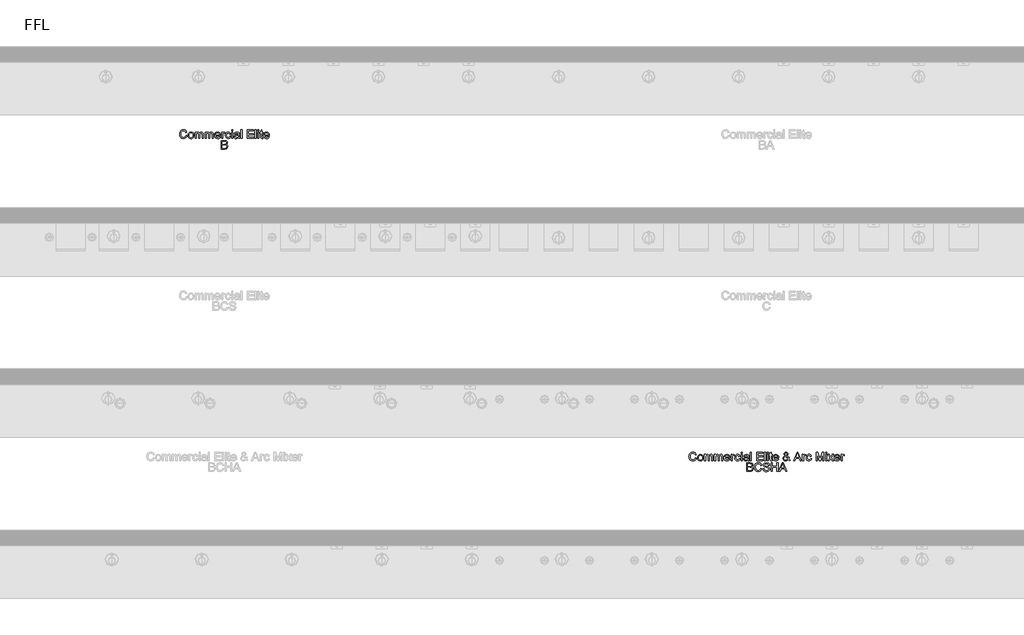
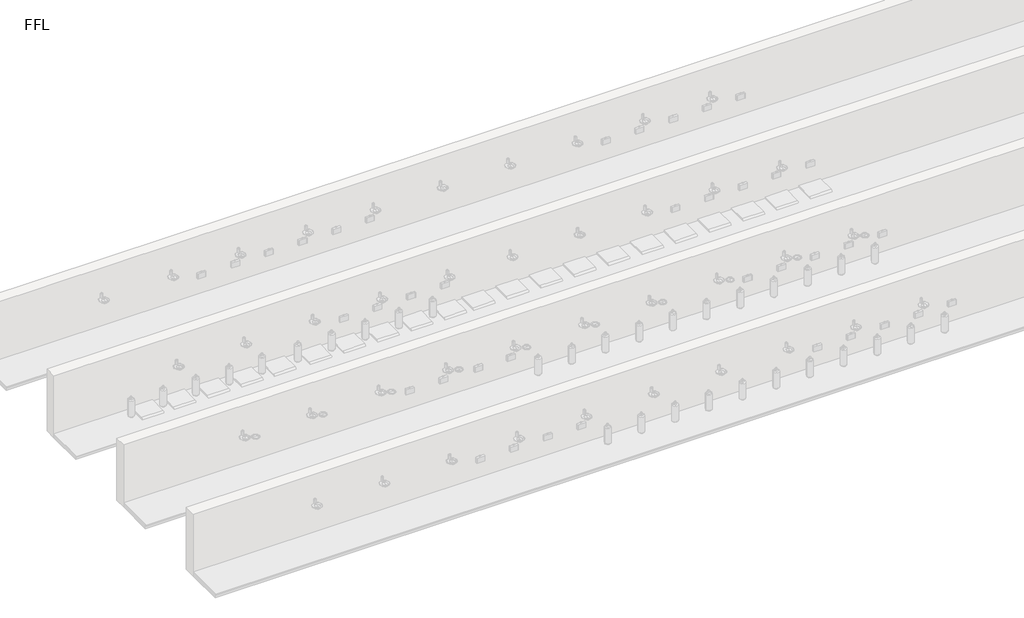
# One storey, part 10 of 13: 2 proxies.
"""IFC4 building model written with IfcOpenShell, lengths in millimetres."""

from ifc_helpers import new_model, si_unit, origin, origin_with_axes, place, context, project, spatial, polyline, outline, extrude, element, save

model = new_model("IFC4")

# Units and contexts
model_context = context("Model", 3, world=origin())
ifc_project = project(units=[si_unit("LENGTHUNIT", "METRE", prefix="MILLI")], contexts=[model_context])

# Site, building, storey
site = spatial("IfcSite", under=ifc_project)
building = spatial("IfcBuilding", under=site)
storey = spatial("IfcBuildingStorey", under=building, Name="FFL", Elevation=0.0)

# Proxies
placement = place(None, origin())
element("IfcBuildingElementProxy", 1, Name="150mm Arial", ObjectType="150mm Arial", at=placement, inside=storey, context=model_context, shape_type="SweptSolid", body=[
    extrude(outline(polyline([(-3000.1199083, 6596.3018309), (-2981.6583698, 6591.5422155), (-2990.1769996, 6570.0292948), (-3003.545389, 6554.3126482), (-3021.1054852, 6544.698766), (-3042.1992352, 6541.4941386), (-3063.6129972, 6543.9190184), (-3080.6187063, 6551.1936578), (-3093.6535621, 6563.065653), (-3103.154764, 6579.2826001), (-3108.9555453, 6598.3481049), (-3110.889139, 6618.7657732), (-3108.7031414, 6640.3012299), (-3102.1451486, 6658.8979847), (-3091.5577087, 6673.9655929), (-3077.2833698, 6684.9136097), (-3060.3542833, 6691.5797756), (-3041.8026006, 6693.8018309), (-3021.5607135, 6690.9262299), (-3004.8254371, 6682.299427), (-2992.1196078, 6668.4532732), (-2983.9660621, 6649.9196193), (-3002.4276006, 6645.5205809), (-3008.8278409, 6658.9836217), (-3017.5718313, 6668.2188982), (-3028.7677448, 6673.5599439), (-3042.5237544, 6675.3402924), (-3058.3801246, 6673.3661338), (-3071.4059659, 6667.4436578), (-3081.2902809, 6658.1948597), (-3087.7220717, 6646.2417347), (-3092.4276006, 6618.8018309), (-3086.8566871, 6586.9989463), (-3079.7352929, 6575.1224439), (-3069.5129371, 6566.6804367), (-3057.2578289, 6561.6368669), (-3044.0381775, 6559.955677), (-3028.6280212, 6562.2453405), (-3015.7869756, 6569.1143309), (-3006.0919635, 6580.4905328), (-3000.1199083, 6596.3018309)])), origin_with_axes(), (0.0, 0.0, 1.0), 5.0),
    extrude(outline(polyline([(-2963.1968313, 6598.0326001), (-2959.2034419, 6624.1834415), (-2947.2232736, 6642.5638501), (-2932.4215909, 6651.5692588), (-2914.6992352, 6654.5710617), (-2895.3047039, 6650.9157131), (-2879.8134179, 6639.9496674), (-2869.6586703, 6622.5383092), (-2866.2737544, 6599.5470232), (-2867.7701486, 6580.8961818), (-2872.2593313, 6566.6984655), (-2879.6105934, 6556.0659535), (-2889.6932256, 6548.1107251), (-2901.6688866, 6543.1482852), (-2914.6992352, 6541.4941386), (-2934.3281414, 6545.1359655), (-2949.8013986, 6556.0614463), (-2959.8479732, 6573.8378886), (-2963.1968313, 6598.0326001)]), holes=[polyline([(-2944.7352929, 6598.0686578), (-2942.5988746, 6581.3604246), (-2936.1896198, 6569.456879), (-2926.5441871, 6562.3309775), (-2914.6992352, 6559.955677), (-2902.9083698, 6562.3444992), (-2893.2809659, 6569.5109655), (-2886.8717111, 6581.5722636), (-2884.7352929, 6598.6455809), (-2886.8852328, 6614.8670352), (-2893.3350525, 6626.6083213), (-2902.975978, 6633.7342227), (-2914.6992352, 6636.1095232), (-2926.5441871, 6633.7432371), (-2936.1896198, 6626.644379), (-2942.5988746, 6614.7678766), (-2944.7352929, 6598.0686578)])]), origin_with_axes(), (0.0, 0.0, 1.0), 5.0),
    extrude(outline(polyline([(-2845.5045236, 6543.8018309), (-2845.5045236, 6652.2633693), (-2827.0429852, 6652.2633693), (-2827.0429852, 6634.4148117), (-2814.3506775, 6649.0362059), (-2796.2857736, 6654.5710617), (-2786.0183458, 6653.1603044), (-2777.7881775, 6648.9280328), (-2767.6199083, 6633.1167347), (-2753.2148602, 6649.2074799), (-2735.0237544, 6654.5710617), (-2721.1460501, 6652.3399919), (-2710.8831294, 6645.6467828), (-2704.5414828, 6634.3111458), (-2702.4276006, 6618.1527924), (-2702.4276006, 6543.8018309), (-2720.889139, 6543.8018309), (-2720.889139, 6610.2201001), (-2722.6018794, 6625.6347636), (-2728.8038025, 6633.2249078), (-2739.3506775, 6636.1095232), (-2749.3521799, 6634.2615665), (-2757.5057256, 6628.7176963), (-2762.927901, 6619.0993068), (-2764.7352929, 6605.0277924), (-2764.7352929, 6543.8018309), (-2783.1968313, 6543.8018309), (-2783.1968313, 6612.2753886), (-2787.4696679, 6630.160004), (-2793.1081895, 6634.6221434), (-2801.4780813, 6636.1095232), (-2815.1439467, 6632.143177), (-2824.2304852, 6620.5326001), (-2827.0429852, 6598.5013501), (-2827.0429852, 6543.8018309), (-2845.5045236, 6543.8018309)])), origin_with_axes(), (0.0, 0.0, 1.0), 5.0),
    extrude(outline(polyline([(-2674.7352929, 6543.8018309), (-2674.7352929, 6652.2633693), (-2656.2737544, 6652.2633693), (-2656.2737544, 6634.4148117), (-2643.5814467, 6649.0362059), (-2625.5165429, 6654.5710617), (-2615.249115, 6653.1603044), (-2607.0189467, 6648.9280328), (-2596.8506775, 6633.1167347), (-2582.4456294, 6649.2074799), (-2564.2545236, 6654.5710617), (-2550.3768193, 6652.3399919), (-2540.1138986, 6645.6467828), (-2533.772252, 6634.3111458), (-2531.6583698, 6618.1527924), (-2531.6583698, 6543.8018309), (-2550.1199083, 6543.8018309), (-2550.1199083, 6610.2201001), (-2551.8326486, 6625.6347636), (-2558.0345717, 6633.2249078), (-2568.5814467, 6636.1095232), (-2578.5829491, 6634.2615665), (-2586.7364948, 6628.7176963), (-2592.1586703, 6619.0993068), (-2593.9660621, 6605.0277924), (-2593.9660621, 6543.8018309), (-2612.4276006, 6543.8018309), (-2612.4276006, 6612.2753886), (-2616.7004371, 6630.160004), (-2622.3389587, 6634.6221434), (-2630.7088506, 6636.1095232), (-2644.3747159, 6632.143177), (-2653.4612544, 6620.5326001), (-2656.2737544, 6598.5013501), (-2656.2737544, 6543.8018309), (-2674.7352929, 6543.8018309)])), origin_with_axes(), (0.0, 0.0, 1.0), 5.0),
    extrude(outline(polyline([(-2428.0285621, 6576.1095232), (-2409.9276006, 6573.8018309), (-2416.4495357, 6560.1630088), (-2426.8566871, 6549.9676963), (-2440.9146799, 6543.612528), (-2458.389139, 6541.4941386), (-2480.0507977, 6545.1494871), (-2496.7184659, 6556.1155328), (-2507.3464708, 6573.6801362), (-2510.889139, 6597.1311578), (-2507.3104131, 6621.3709415), (-2496.5742352, 6639.4989463), (-2480.1319275, 6650.8030328), (-2459.4348121, 6654.5710617), (-2439.382228, 6650.8120472), (-2423.3590909, 6639.535004), (-2412.8527809, 6621.4430568), (-2409.3506775, 6597.2393309), (-2409.4588506, 6592.2633693), (-2492.4276006, 6592.2633693), (-2489.2319876, 6578.4442588), (-2481.8086102, 6568.285004), (-2471.0949684, 6562.0380088), (-2458.0285621, 6559.955677), (-2439.9276006, 6563.8138501), (-2428.0285621, 6576.1095232)]), holes=[polyline([(-2492.4276006, 6610.7249078), (-2427.8122159, 6610.7249078), (-2430.3092111, 6620.4785136), (-2435.2040429, 6627.455677), (-2445.967264, 6633.9460617), (-2459.5069275, 6636.1095232), (-2471.9513385, 6634.3832612), (-2482.2413025, 6629.2044751), (-2489.3942472, 6621.1320592), (-2492.4276006, 6610.7249078)])]), origin_with_axes(), (0.0, 0.0, 1.0), 5.0),
    extrude(outline(polyline([(-2390.889139, 6543.8018309), (-2390.889139, 6652.2633693), (-2374.7352929, 6652.2633693), (-2374.7352929, 6636.2176963), (-2363.2689467, 6651.0013501), (-2351.7304852, 6654.5710617), (-2333.1968313, 6648.8739463), (-2339.3626967, 6632.3234655), (-2352.3434659, 6636.1095232), (-2362.7821679, 6632.4676963), (-2369.4348121, 6622.3715424), (-2372.4276006, 6600.8090424), (-2372.4276006, 6543.8018309), (-2390.889139, 6543.8018309)])), origin_with_axes(), (0.0, 0.0, 1.0), 5.0),
    extrude(outline(polyline([(-2252.4276006, 6583.0326001), (-2233.9660621, 6580.7249078), (-2239.1132977, 6564.3051362), (-2248.7857736, 6551.8967828), (-2262.0730333, 6544.0947996), (-2278.0646198, 6541.4941386), (-2297.7025405, 6545.1224439), (-2313.0586102, 6556.0073597), (-2322.9699684, 6573.6711217), (-2326.2737544, 6597.6359655), (-2320.6307256, 6628.3030328), (-2313.5093313, 6639.8009294), (-2303.4312063, 6648.0085617), (-2291.3744155, 6652.9304367), (-2278.3170236, 6654.5710617), (-2262.7175645, 6652.3174559), (-2250.2461102, 6645.5566386), (-2241.2992953, 6634.6491867), (-2236.2737544, 6619.955677), (-2254.7352929, 6617.6479847), (-2263.2989948, 6631.4761097), (-2278.1727929, 6636.1095232), (-2290.1033818, 6633.8288742), (-2299.5730333, 6626.986927), (-2305.7524203, 6615.2140905), (-2307.8122159, 6598.1407732), (-2305.7974924, 6580.8375881), (-2299.7533217, 6569.0241867), (-2290.4549443, 6562.2228044), (-2278.6776006, 6559.955677), (-2269.1178049, 6561.3709415), (-2261.279764, 6565.6167347), (-2255.5781414, 6572.8012299), (-2252.4276006, 6583.0326001)])), origin_with_axes(), (0.0, 0.0, 1.0), 5.0),
    extrude(outline(polyline([(-2217.8122159, 6673.0326001), (-2217.8122159, 6691.4941386), (-2199.3506775, 6691.4941386), (-2199.3506775, 6673.0326001), (-2217.8122159, 6673.0326001)])), origin_with_axes(), (0.0, 0.0, 1.0), 5.0),
    extrude(outline(polyline([(-2217.8122159, 6543.8018309), (-2217.8122159, 6652.2633693), (-2199.3506775, 6652.2633693), (-2199.3506775, 6543.8018309), (-2217.8122159, 6543.8018309)])), origin_with_axes(), (0.0, 0.0, 1.0), 5.0),
    extrude(outline(polyline([(-2102.4276006, 6557.6479847), (-2120.3302448, 6545.1359655), (-2140.107889, 6541.4941386), (-2155.5360741, 6543.6846434), (-2166.9167833, 6550.2561578), (-2173.9345116, 6560.2351242), (-2176.2737544, 6572.6479847), (-2172.7401006, 6587.2513501), (-2163.4552448, 6597.8523117), (-2150.5285621, 6603.910004), (-2134.5550044, 6606.6864463), (-2102.5357736, 6613.0326001), (-2102.4276006, 6617.143177), (-2103.6986342, 6625.3823597), (-2107.5117352, 6630.7729847), (-2116.0393794, 6634.7753886), (-2127.920389, 6636.1095232), (-2146.5982736, 6632.5578405), (-2155.5045236, 6619.955677), (-2173.9660621, 6622.2633693), (-2165.9792833, 6640.2922155), (-2149.8975525, 6650.8571193), (-2125.5405813, 6654.5710617), (-2103.1667833, 6651.2898117), (-2090.5285621, 6643.050629), (-2084.8675044, 6630.5205809), (-2083.9660621, 6614.3667347), (-2083.9660621, 6591.3979847), (-2083.0285621, 6559.3246674), (-2079.3506775, 6543.8018309), (-2097.8122159, 6543.8018309), (-2102.4276006, 6557.6479847)]), holes=[polyline([(-2102.4276006, 6594.5710617), (-2132.2112544, 6588.910004), (-2148.0946679, 6585.9172155), (-2155.2881775, 6581.049427), (-2157.8122159, 6573.9460617), (-2152.3134179, 6563.9580809), (-2136.1776006, 6559.955677), (-2117.4997159, 6564.3727443), (-2105.4564467, 6575.0638501), (-2102.5357736, 6589.3426963), (-2102.4276006, 6594.5710617)])]), origin_with_axes(), (0.0, 0.0, 1.0), 5.0),
    extrude(outline(polyline([(-2058.5814467, 6543.8018309), (-2058.5814467, 6691.4941386), (-2040.1199083, 6691.4941386), (-2040.1199083, 6543.8018309), (-2058.5814467, 6543.8018309)])), origin_with_axes(), (0.0, 0.0, 1.0), 5.0),
    extrude(outline(polyline([(-1952.4276006, 6543.8018309), (-1952.4276006, 6691.4941386), (-1846.2737544, 6691.4941386), (-1846.2737544, 6673.0326001), (-1933.9660621, 6673.0326001), (-1933.9660621, 6629.1864463), (-1850.889139, 6629.1864463), (-1850.889139, 6610.7249078), (-1933.9660621, 6610.7249078), (-1933.9660621, 6562.2633693), (-1843.9660621, 6562.2633693), (-1843.9660621, 6543.8018309), (-1952.4276006, 6543.8018309)])), origin_with_axes(), (0.0, 0.0, 1.0), 5.0),
    extrude(outline(polyline([(-1818.5814467, 6543.8018309), (-1818.5814467, 6691.4941386), (-1800.1199083, 6691.4941386), (-1800.1199083, 6543.8018309), (-1818.5814467, 6543.8018309)])), origin_with_axes(), (0.0, 0.0, 1.0), 5.0),
    extrude(outline(polyline([(-1772.4276006, 6543.8018309), (-1772.4276006, 6652.2633693), (-1753.9660621, 6652.2633693), (-1753.9660621, 6543.8018309), (-1772.4276006, 6543.8018309)])), origin_with_axes(), (0.0, 0.0, 1.0), 5.0),
    extrude(outline(polyline([(-1772.4276006, 6673.0326001), (-1772.4276006, 6691.4941386), (-1753.9660621, 6691.4941386), (-1753.9660621, 6673.0326001), (-1772.4276006, 6673.0326001)])), origin_with_axes(), (0.0, 0.0, 1.0), 5.0),
    extrude(outline(polyline([(-1687.0429852, 6559.1984655), (-1684.7352929, 6543.2609655), (-1698.545389, 6541.4941386), (-1714.014139, 6544.5590424), (-1721.7304852, 6552.5999078), (-1723.9660621, 6573.549427), (-1723.9660621, 6633.8018309), (-1737.8122159, 6633.8018309), (-1737.8122159, 6652.2633693), (-1723.9660621, 6652.2633693), (-1723.9660621, 6678.6215424), (-1705.5045236, 6689.4749078), (-1705.5045236, 6652.2633693), (-1687.0429852, 6652.2633693), (-1687.0429852, 6633.8018309), (-1705.5045236, 6633.8018309), (-1705.5045236, 6574.0902924), (-1704.5309659, 6564.5710617), (-1701.3759179, 6561.1996674), (-1695.0838506, 6559.955677), (-1687.0429852, 6559.1984655)])), origin_with_axes(), (0.0, 0.0, 1.0), 5.0),
    extrude(outline(polyline([(-1592.6439467, 6576.1095232), (-1574.5429852, 6573.8018309), (-1581.0649203, 6560.1630088), (-1591.4720717, 6549.9676963), (-1605.5300645, 6543.612528), (-1623.0045236, 6541.4941386), (-1644.6661823, 6545.1494871), (-1661.3338506, 6556.1155328), (-1671.9618554, 6573.6801362), (-1675.5045236, 6597.1311578), (-1671.9257977, 6621.3709415), (-1661.1896198, 6639.4989463), (-1644.7473121, 6650.8030328), (-1624.0501967, 6654.5710617), (-1603.9976126, 6650.8120472), (-1587.9744756, 6639.535004), (-1577.4681655, 6621.4430568), (-1573.9660621, 6597.2393309), (-1574.0742352, 6592.2633693), (-1657.0429852, 6592.2633693), (-1653.8473722, 6578.4442588), (-1646.4239948, 6568.285004), (-1635.710353, 6562.0380088), (-1622.6439467, 6559.955677), (-1604.5429852, 6563.8138501), (-1592.6439467, 6576.1095232)]), holes=[polyline([(-1657.0429852, 6610.7249078), (-1592.4276006, 6610.7249078), (-1594.9245958, 6620.4785136), (-1599.8194275, 6627.455677), (-1610.5826486, 6633.9460617), (-1624.1223121, 6636.1095232), (-1636.5667232, 6634.3832612), (-1646.8566871, 6629.2044751), (-1654.0096318, 6621.1320592), (-1657.0429852, 6610.7249078)])]), origin_with_axes(), (0.0, 0.0, 1.0), 5.0),
    extrude(outline(polyline([(-2396.6583698, 6361.4941386), (-2396.6583698, 6509.1864463), (-2340.3001967, 6509.1864463), (-2312.6980333, 6504.8414943), (-2303.4221919, 6499.3291746), (-2296.3999563, 6491.4821193), (-2290.5045236, 6472.5878886), (-2295.4624563, 6455.3342828), (-2310.4444275, 6442.2633693), (-2299.9831895, 6436.800629), (-2292.2533217, 6428.4893309), (-2287.4801847, 6417.8793549), (-2285.889139, 6405.5205809), (-2290.2340909, 6385.6708213), (-2300.9973121, 6371.5362059), (-2317.061014, 6364.0362059), (-2340.732889, 6361.4941386), (-2396.6583698, 6361.4941386)]), holes=[polyline([(-2378.1968313, 6379.955677), (-2340.3362544, 6379.955677), (-2326.6343313, 6380.6768309), (-2315.0417833, 6384.6972636), (-2307.3614948, 6392.9003886), (-2304.3506775, 6405.3402924), (-2307.8843313, 6419.691254), (-2319.3326486, 6428.2549559), (-2342.139139, 6430.7249078), (-2378.1968313, 6430.7249078), (-2378.1968313, 6379.955677)]), polyline([(-2378.1968313, 6449.1864463), (-2344.482889, 6449.1864463), (-2324.795389, 6450.7729847), (-2312.9504371, 6457.6059174), (-2308.9660621, 6469.6311578), (-2312.6800044, 6481.674427), (-2323.3170236, 6488.7958213), (-2347.0429852, 6490.7249078), (-2378.1968313, 6490.7249078), (-2378.1968313, 6449.1864463)])]), origin_with_axes(), (0.0, 0.0, 1.0), 5.0),
])
element("IfcBuildingElementProxy", 2, Name="150mm Arial", ObjectType="150mm Arial", at=placement, inside=storey, context=model_context, shape_type="SweptSolid", body=[
    extrude(outline(polyline([(5724.0147071, 1076.3018309), (5742.4762456, 1071.5422155), (5733.9576158, 1050.0292948), (5720.5892264, 1034.3126482), (5703.0291302, 1024.698766), (5681.9353802, 1021.4941386), (5660.5216182, 1023.9190184), (5643.5159091, 1031.1936578), (5630.4810533, 1043.065653), (5620.9798514, 1059.2826001), (5615.1790701, 1078.3481049), (5613.2454764, 1098.7657732), (5615.431474, 1120.3012299), (5621.9894667, 1138.8979847), (5632.5769066, 1153.9655929), (5646.8512456, 1164.9136097), (5663.7803321, 1171.5797756), (5682.3320148, 1173.8018309), (5702.5739018, 1170.9262299), (5719.3091783, 1162.299427), (5732.0150076, 1148.4532732), (5740.1685533, 1129.9196193), (5721.7070148, 1125.5205809), (5715.3067744, 1138.9836217), (5706.5627841, 1148.2188982), (5695.3668706, 1153.5599439), (5681.610861, 1155.3402924), (5665.7544908, 1153.3661338), (5652.7286494, 1147.4436578), (5642.8443345, 1138.1948597), (5636.4125437, 1126.2417347), (5631.7070148, 1098.8018309), (5637.2779283, 1066.9989463), (5644.3993225, 1055.1224439), (5654.6216783, 1046.6804367), (5666.8767865, 1041.6368669), (5680.0964379, 1039.955677), (5695.5065941, 1042.2453405), (5708.3476398, 1049.1143309), (5718.0426518, 1060.4905328), (5724.0147071, 1076.3018309)])), origin_with_axes(), (0.0, 0.0, 1.0), 5.0),
    extrude(outline(polyline([(5760.9377841, 1078.0326001), (5764.9311735, 1104.1834415), (5776.9113417, 1122.5638501), (5791.7130244, 1131.5692588), (5809.4353802, 1134.5710617), (5828.8299115, 1130.9157131), (5844.3211975, 1119.9496674), (5854.4759451, 1102.5383092), (5857.860861, 1079.5470232), (5856.3644667, 1060.8961818), (5851.8752841, 1046.6984655), (5844.524022, 1036.0659535), (5834.4413898, 1028.1107251), (5822.4657288, 1023.1482852), (5809.4353802, 1021.4941386), (5789.806474, 1025.1359655), (5774.3332167, 1036.0614463), (5764.2866422, 1053.8378886), (5760.9377841, 1078.0326001)]), holes=[polyline([(5779.3993225, 1078.0686578), (5781.5357408, 1061.3604246), (5787.9449956, 1049.456879), (5797.5904283, 1042.3309775), (5809.4353802, 1039.955677), (5821.2262456, 1042.3444992), (5830.8536494, 1049.5109655), (5837.2629042, 1061.5722636), (5839.3993225, 1078.6455809), (5837.2493826, 1094.8670352), (5830.7995629, 1106.6083213), (5821.1586374, 1113.7342227), (5809.4353802, 1116.1095232), (5797.5904283, 1113.7432371), (5787.9449956, 1106.644379), (5781.5357408, 1094.7678766), (5779.3993225, 1078.0686578)])]), origin_with_axes(), (0.0, 0.0, 1.0), 5.0),
    extrude(outline(polyline([(5878.6300917, 1023.8018309), (5878.6300917, 1132.2633693), (5897.0916302, 1132.2633693), (5897.0916302, 1114.4148117), (5909.7839379, 1129.0362059), (5927.8488417, 1134.5710617), (5938.1162696, 1133.1603044), (5946.3464379, 1128.9280328), (5956.5147071, 1113.1167347), (5970.9197552, 1129.2074799), (5989.110861, 1134.5710617), (6002.9885653, 1132.3399919), (6013.251486, 1125.6467828), (6019.5931326, 1114.3111458), (6021.7070148, 1098.1527924), (6021.7070148, 1023.8018309), (6003.2454764, 1023.8018309), (6003.2454764, 1090.2201001), (6001.532736, 1105.6347636), (5995.3308129, 1113.2249078), (5984.7839379, 1116.1095232), (5974.7824355, 1114.2615665), (5966.6288898, 1108.7176963), (5961.2067143, 1099.0993068), (5959.3993225, 1085.0277924), (5959.3993225, 1023.8018309), (5940.9377841, 1023.8018309), (5940.9377841, 1092.2753886), (5936.6649475, 1110.160004), (5931.0264259, 1114.6221434), (5922.6565341, 1116.1095232), (5908.9906687, 1112.143177), (5899.9041302, 1100.5326001), (5897.0916302, 1078.5013501), (5897.0916302, 1023.8018309), (5878.6300917, 1023.8018309)])), origin_with_axes(), (0.0, 0.0, 1.0), 5.0),
    extrude(outline(polyline([(6049.3993225, 1023.8018309), (6049.3993225, 1132.2633693), (6067.860861, 1132.2633693), (6067.860861, 1114.4148117), (6080.5531687, 1129.0362059), (6098.6180725, 1134.5710617), (6108.8855004, 1133.1603044), (6117.1156687, 1128.9280328), (6127.2839379, 1113.1167347), (6141.688986, 1129.2074799), (6159.8800917, 1134.5710617), (6173.7577961, 1132.3399919), (6184.0207167, 1125.6467828), (6190.3623634, 1114.3111458), (6192.4762456, 1098.1527924), (6192.4762456, 1023.8018309), (6174.0147071, 1023.8018309), (6174.0147071, 1090.2201001), (6172.3019667, 1105.6347636), (6166.1000437, 1113.2249078), (6155.5531687, 1116.1095232), (6145.5516663, 1114.2615665), (6137.3981206, 1108.7176963), (6131.9759451, 1099.0993068), (6130.1685533, 1085.0277924), (6130.1685533, 1023.8018309), (6111.7070148, 1023.8018309), (6111.7070148, 1092.2753886), (6107.4341783, 1110.160004), (6101.7956566, 1114.6221434), (6093.4257648, 1116.1095232), (6079.7598994, 1112.143177), (6070.673361, 1100.5326001), (6067.860861, 1078.5013501), (6067.860861, 1023.8018309), (6049.3993225, 1023.8018309)])), origin_with_axes(), (0.0, 0.0, 1.0), 5.0),
    extrude(outline(polyline([(6296.1060533, 1056.1095232), (6314.2070148, 1053.8018309), (6307.6850797, 1040.1630088), (6297.2779283, 1029.9676963), (6283.2199355, 1023.612528), (6265.7454764, 1021.4941386), (6244.0838177, 1025.1494871), (6227.4161494, 1036.1155328), (6216.7881446, 1053.6801362), (6213.2454764, 1077.1311578), (6216.8242023, 1101.3709415), (6227.5603802, 1119.4989463), (6244.0026879, 1130.8030328), (6264.6998033, 1134.5710617), (6284.7523874, 1130.8120472), (6300.7755244, 1119.535004), (6311.2818345, 1101.4430568), (6314.7839379, 1077.2393309), (6314.6757648, 1072.2633693), (6231.7070148, 1072.2633693), (6234.9026278, 1058.4442588), (6242.3260052, 1048.285004), (6253.039647, 1042.0380088), (6266.1060533, 1039.955677), (6284.2070148, 1043.8138501), (6296.1060533, 1056.1095232)]), holes=[polyline([(6231.7070148, 1090.7249078), (6296.3223994, 1090.7249078), (6293.8254042, 1100.4785136), (6288.9305725, 1107.455677), (6278.1673514, 1113.9460617), (6264.6276879, 1116.1095232), (6252.1832768, 1114.3832612), (6241.8933129, 1109.2044751), (6234.7403682, 1101.1320592), (6231.7070148, 1090.7249078)])]), origin_with_axes(), (0.0, 0.0, 1.0), 5.0),
    extrude(outline(polyline([(6333.2454764, 1023.8018309), (6333.2454764, 1132.2633693), (6349.3993225, 1132.2633693), (6349.3993225, 1116.2176963), (6360.8656687, 1131.0013501), (6372.4041302, 1134.5710617), (6390.9377841, 1128.8739463), (6384.7719187, 1112.3234655), (6371.7911494, 1116.1095232), (6361.3524475, 1112.4676963), (6354.6998033, 1102.3715424), (6351.7070148, 1080.8090424), (6351.7070148, 1023.8018309), (6333.2454764, 1023.8018309)])), origin_with_axes(), (0.0, 0.0, 1.0), 5.0),
    extrude(outline(polyline([(6471.7070148, 1063.0326001), (6490.1685533, 1060.7249078), (6485.0213177, 1044.3051362), (6475.3488417, 1031.8967828), (6462.0615821, 1024.0947996), (6446.0699956, 1021.4941386), (6426.4320749, 1025.1224439), (6411.0760052, 1036.0073597), (6401.164647, 1053.6711217), (6397.860861, 1077.6359655), (6403.5038898, 1108.3030328), (6410.6252841, 1119.8009294), (6420.7034091, 1128.0085617), (6432.7601999, 1132.9304367), (6445.8175917, 1134.5710617), (6461.4170509, 1132.3174559), (6473.8885052, 1125.5566386), (6482.8353201, 1114.6491867), (6487.860861, 1099.955677), (6469.3993225, 1097.6479847), (6460.8356206, 1111.4761097), (6445.9618225, 1116.1095232), (6434.0312336, 1113.8288742), (6424.5615821, 1106.986927), (6418.3821951, 1095.2140905), (6416.3223994, 1078.1407732), (6418.337123, 1060.8375881), (6424.3812937, 1049.0241867), (6433.6796711, 1042.2228044), (6445.4570148, 1039.955677), (6455.0168105, 1041.3709415), (6462.8548514, 1045.6167347), (6468.556474, 1052.8012299), (6471.7070148, 1063.0326001)])), origin_with_axes(), (0.0, 0.0, 1.0), 5.0),
    extrude(outline(polyline([(6506.3223994, 1153.0326001), (6506.3223994, 1171.4941386), (6524.7839379, 1171.4941386), (6524.7839379, 1153.0326001), (6506.3223994, 1153.0326001)])), origin_with_axes(), (0.0, 0.0, 1.0), 5.0),
    extrude(outline(polyline([(6506.3223994, 1023.8018309), (6506.3223994, 1132.2633693), (6524.7839379, 1132.2633693), (6524.7839379, 1023.8018309), (6506.3223994, 1023.8018309)])), origin_with_axes(), (0.0, 0.0, 1.0), 5.0),
    extrude(outline(polyline([(6621.7070148, 1037.6479847), (6603.8043706, 1025.1359655), (6584.0267264, 1021.4941386), (6568.5985413, 1023.6846434), (6557.2178321, 1030.2561578), (6550.2001038, 1040.2351242), (6547.860861, 1052.6479847), (6551.3945148, 1067.2513501), (6560.6793706, 1077.8523117), (6573.6060533, 1083.910004), (6589.579611, 1086.6864463), (6621.5988417, 1093.0326001), (6621.7070148, 1097.143177), (6620.4359812, 1105.3823597), (6616.6228802, 1110.7729847), (6608.095236, 1114.7753886), (6596.2142264, 1116.1095232), (6577.5363417, 1112.5578405), (6568.6300917, 1099.955677), (6550.1685533, 1102.2633693), (6558.1553321, 1120.2922155), (6574.2370629, 1130.8571193), (6598.5940341, 1134.5710617), (6620.9678321, 1131.2898117), (6633.6060533, 1123.050629), (6639.267111, 1110.5205809), (6640.1685533, 1094.3667347), (6640.1685533, 1071.3979847), (6641.1060533, 1039.3246674), (6644.7839379, 1023.8018309), (6626.3223994, 1023.8018309), (6621.7070148, 1037.6479847)]), holes=[polyline([(6621.7070148, 1074.5710617), (6591.923361, 1068.910004), (6576.0399475, 1065.9172155), (6568.8464379, 1061.049427), (6566.3223994, 1053.9460617), (6571.8211975, 1043.9580809), (6587.9570148, 1039.955677), (6606.6348994, 1044.3727443), (6618.6781687, 1055.0638501), (6621.5988417, 1069.3426963), (6621.7070148, 1074.5710617)])]), origin_with_axes(), (0.0, 0.0, 1.0), 5.0),
    extrude(outline(polyline([(6665.5531687, 1023.8018309), (6665.5531687, 1171.4941386), (6684.0147071, 1171.4941386), (6684.0147071, 1023.8018309), (6665.5531687, 1023.8018309)])), origin_with_axes(), (0.0, 0.0, 1.0), 5.0),
    extrude(outline(polyline([(6771.7070148, 1023.8018309), (6771.7070148, 1171.4941386), (6877.860861, 1171.4941386), (6877.860861, 1153.0326001), (6790.1685533, 1153.0326001), (6790.1685533, 1109.1864463), (6873.2454764, 1109.1864463), (6873.2454764, 1090.7249078), (6790.1685533, 1090.7249078), (6790.1685533, 1042.2633693), (6880.1685533, 1042.2633693), (6880.1685533, 1023.8018309), (6771.7070148, 1023.8018309)])), origin_with_axes(), (0.0, 0.0, 1.0), 5.0),
    extrude(outline(polyline([(6905.5531687, 1023.8018309), (6905.5531687, 1171.4941386), (6924.0147071, 1171.4941386), (6924.0147071, 1023.8018309), (6905.5531687, 1023.8018309)])), origin_with_axes(), (0.0, 0.0, 1.0), 5.0),
    extrude(outline(polyline([(6951.7070148, 1023.8018309), (6951.7070148, 1132.2633693), (6970.1685533, 1132.2633693), (6970.1685533, 1023.8018309), (6951.7070148, 1023.8018309)])), origin_with_axes(), (0.0, 0.0, 1.0), 5.0),
    extrude(outline(polyline([(6951.7070148, 1153.0326001), (6951.7070148, 1171.4941386), (6970.1685533, 1171.4941386), (6970.1685533, 1153.0326001), (6951.7070148, 1153.0326001)])), origin_with_axes(), (0.0, 0.0, 1.0), 5.0),
    extrude(outline(polyline([(7037.0916302, 1039.1984655), (7039.3993225, 1023.2609655), (7025.5892264, 1021.4941386), (7010.1204764, 1024.5590424), (7002.4041302, 1032.5999078), (7000.1685533, 1053.549427), (7000.1685533, 1113.8018309), (6986.3223994, 1113.8018309), (6986.3223994, 1132.2633693), (7000.1685533, 1132.2633693), (7000.1685533, 1158.6215424), (7018.6300917, 1169.4749078), (7018.6300917, 1132.2633693), (7037.0916302, 1132.2633693), (7037.0916302, 1113.8018309), (7018.6300917, 1113.8018309), (7018.6300917, 1054.0902924), (7019.6036494, 1044.5710617), (7022.7586975, 1041.1996674), (7029.0507648, 1039.955677), (7037.0916302, 1039.1984655)])), origin_with_axes(), (0.0, 0.0, 1.0), 5.0),
    extrude(outline(polyline([(7131.4906687, 1056.1095232), (7149.5916302, 1053.8018309), (7143.0696951, 1040.1630088), (7132.6625437, 1029.9676963), (7118.6045509, 1023.612528), (7101.1300917, 1021.4941386), (7079.4684331, 1025.1494871), (7062.8007648, 1036.1155328), (7052.17276, 1053.6801362), (7048.6300917, 1077.1311578), (7052.2088177, 1101.3709415), (7062.9449956, 1119.4989463), (7079.3873033, 1130.8030328), (7100.0844187, 1134.5710617), (7120.1370028, 1130.8120472), (7136.1601398, 1119.535004), (7146.6664499, 1101.4430568), (7150.1685533, 1077.2393309), (7150.0603802, 1072.2633693), (7067.0916302, 1072.2633693), (7070.2872432, 1058.4442588), (7077.7106206, 1048.285004), (7088.4242624, 1042.0380088), (7101.4906687, 1039.955677), (7119.5916302, 1043.8138501), (7131.4906687, 1056.1095232)]), holes=[polyline([(7067.0916302, 1090.7249078), (7131.7070148, 1090.7249078), (7129.2100196, 1100.4785136), (7124.3151879, 1107.455677), (7113.5519667, 1113.9460617), (7100.0123033, 1116.1095232), (7087.5678922, 1114.3832612), (7077.2779283, 1109.2044751), (7070.1249836, 1101.1320592), (7067.0916302, 1090.7249078)])]), origin_with_axes(), (0.0, 0.0, 1.0), 5.0),
    extrude(outline(polyline([(7311.0219187, 1042.0470232), (7291.4425917, 1026.6323597), (7268.5459571, 1021.4941386), (7248.173361, 1025.2982251), (7232.4882648, 1036.7104847), (7224.4023273, 1049.8444992), (7221.7070148, 1064.4388501), (7223.8749836, 1077.3745472), (7230.3788898, 1088.9941386), (7241.1916903, 1099.2886097), (7256.2863417, 1108.2489463), (7243.3957167, 1126.9268309), (7240.1685533, 1140.7729847), (7242.7106206, 1153.2399318), (7250.3368225, 1163.9580809), (7261.8121831, 1171.3408934), (7275.9017264, 1173.8018309), (7289.3061735, 1171.4490665), (7300.0243225, 1164.3907732), (7307.0555725, 1154.0332011), (7309.3993225, 1141.7826001), (7307.6640461, 1131.4971434), (7302.4582167, 1121.986927), (7281.6348994, 1105.2922155), (7308.3536494, 1072.0109655), (7316.3223994, 1092.455677), (7334.7839379, 1088.4532732), (7321.7310533, 1058.0566386), (7344.0147071, 1035.7008693), (7330.1685533, 1021.4941386), (7311.0219187, 1042.0470232)]), holes=[polyline([(7272.2959571, 1116.9388501), (7287.4762456, 1128.3871674), (7290.9377841, 1139.2585617), (7286.376486, 1150.8511097), (7274.9642264, 1155.3402924), (7263.2995629, 1150.8871674), (7258.6300917, 1140.0157732), (7260.2166302, 1133.2549559), (7265.0123033, 1125.736927), (7272.2959571, 1116.9388501)]), polyline([(7298.6541302, 1055.3523117), (7265.6973994, 1096.4941386), (7245.4149475, 1081.0253886), (7240.1685533, 1066.8907732), (7241.9624235, 1058.1828405), (7247.3440341, 1049.1503886), (7256.0159091, 1042.2543549), (7267.6805725, 1039.955677), (7284.6457167, 1044.2465424), (7298.6541302, 1055.3523117)])]), origin_with_axes(), (0.0, 0.0, 1.0), 5.0),
    extrude(outline(polyline([(7405.2767264, 1023.8018309), (7464.2310533, 1171.4941386), (7479.9522071, 1171.4941386), (7538.9065341, 1023.8018309), (7519.3993225, 1023.8018309), (7502.4882648, 1069.955677), (7441.6589379, 1069.955677), (7424.7839379, 1023.8018309), (7405.2767264, 1023.8018309)]), holes=[polyline([(7448.4377841, 1088.4172155), (7495.7454764, 1088.4172155), (7482.4401879, 1124.7273117), (7472.0916302, 1153.0326001), (7462.8969187, 1127.9003886), (7448.4377841, 1088.4172155)])]), origin_with_axes(), (0.0, 0.0, 1.0), 5.0),
    extrude(outline(polyline([(7556.3223994, 1023.8018309), (7556.3223994, 1132.2633693), (7572.4762456, 1132.2633693), (7572.4762456, 1116.2176963), (7583.9425917, 1131.0013501), (7595.4810533, 1134.5710617), (7614.0147071, 1128.8739463), (7607.8488417, 1112.3234655), (7594.8680725, 1116.1095232), (7584.4293706, 1112.4676963), (7577.7767264, 1102.3715424), (7574.7839379, 1080.8090424), (7574.7839379, 1023.8018309), (7556.3223994, 1023.8018309)])), origin_with_axes(), (0.0, 0.0, 1.0), 5.0),
    extrude(outline(polyline([(7694.7839379, 1063.0326001), (7713.2454764, 1060.7249078), (7708.0982408, 1044.3051362), (7698.4257648, 1031.8967828), (7685.1385052, 1024.0947996), (7669.1469187, 1021.4941386), (7649.508998, 1025.1224439), (7634.1529283, 1036.0073597), (7624.2415701, 1053.6711217), (7620.9377841, 1077.6359655), (7626.5808129, 1108.3030328), (7633.7022071, 1119.8009294), (7643.7803321, 1128.0085617), (7655.837123, 1132.9304367), (7668.8945148, 1134.5710617), (7684.493974, 1132.3174559), (7696.9654283, 1125.5566386), (7705.9122432, 1114.6491867), (7710.9377841, 1099.955677), (7692.4762456, 1097.6479847), (7683.9125437, 1111.4761097), (7669.0387456, 1116.1095232), (7657.1081566, 1113.8288742), (7647.6385052, 1106.986927), (7641.4591182, 1095.2140905), (7639.3993225, 1078.1407732), (7641.4140461, 1060.8375881), (7647.4582167, 1049.0241867), (7656.7565941, 1042.2228044), (7668.5339379, 1039.955677), (7678.0937336, 1041.3709415), (7685.9317744, 1045.6167347), (7691.633397, 1052.8012299), (7694.7839379, 1063.0326001)])), origin_with_axes(), (0.0, 0.0, 1.0), 5.0),
    extrude(outline(polyline([(7789.3993225, 1023.8018309), (7789.3993225, 1171.4941386), (7821.1661494, 1171.4941386), (7851.3824956, 1067.3955809), (7857.4762456, 1045.6527924), (7864.0748033, 1069.1984655), (7893.7863417, 1171.4941386), (7925.5531687, 1171.4941386), (7925.5531687, 1023.8018309), (7907.0916302, 1023.8018309), (7907.0916302, 1153.0326001), (7869.9882648, 1023.8018309), (7844.9642264, 1023.8018309), (7807.860861, 1153.0326001), (7807.860861, 1023.8018309), (7789.3993225, 1023.8018309)])), origin_with_axes(), (0.0, 0.0, 1.0), 5.0),
    extrude(outline(polyline([(7955.5531687, 1153.0326001), (7955.5531687, 1171.4941386), (7974.0147071, 1171.4941386), (7974.0147071, 1153.0326001), (7955.5531687, 1153.0326001)])), origin_with_axes(), (0.0, 0.0, 1.0), 5.0),
    extrude(outline(polyline([(7955.5531687, 1023.8018309), (7955.5531687, 1132.2633693), (7974.0147071, 1132.2633693), (7974.0147071, 1023.8018309), (7955.5531687, 1023.8018309)])), origin_with_axes(), (0.0, 0.0, 1.0), 5.0),
    extrude(outline(polyline([(7990.1685533, 1023.8018309), (8029.6156687, 1078.3210617), (7992.4762456, 1132.2633693), (8014.6877841, 1132.2633693), (8032.6084571, 1106.3018309), (8040.9738417, 1094.0422155), (8048.2214379, 1104.066254), (8068.6300917, 1132.2633693), (8090.8416302, 1132.2633693), (8051.8272071, 1078.3210617), (8089.3993225, 1023.8018309), (8067.1877841, 1023.8018309), (8044.579611, 1056.5782732), (8040.4329764, 1062.5638501), (8012.3800917, 1023.8018309), (7990.1685533, 1023.8018309)])), origin_with_axes(), (0.0, 0.0, 1.0), 5.0),
    extrude(outline(polyline([(8181.4906687, 1056.1095232), (8199.5916302, 1053.8018309), (8193.0696951, 1040.1630088), (8182.6625437, 1029.9676963), (8168.6045509, 1023.612528), (8151.1300917, 1021.4941386), (8129.4684331, 1025.1494871), (8112.8007648, 1036.1155328), (8102.17276, 1053.6801362), (8098.6300917, 1077.1311578), (8102.2088177, 1101.3709415), (8112.9449956, 1119.4989463), (8129.3873033, 1130.8030328), (8150.0844187, 1134.5710617), (8170.1370028, 1130.8120472), (8186.1601398, 1119.535004), (8196.6664499, 1101.4430568), (8200.1685533, 1077.2393309), (8200.0603802, 1072.2633693), (8117.0916302, 1072.2633693), (8120.2872432, 1058.4442588), (8127.7106206, 1048.285004), (8138.4242624, 1042.0380088), (8151.4906687, 1039.955677), (8169.5916302, 1043.8138501), (8181.4906687, 1056.1095232)]), holes=[polyline([(8117.0916302, 1090.7249078), (8181.7070148, 1090.7249078), (8179.2100196, 1100.4785136), (8174.3151879, 1107.455677), (8163.5519667, 1113.9460617), (8150.0123033, 1116.1095232), (8137.5678922, 1114.3832612), (8127.2779283, 1109.2044751), (8120.1249836, 1101.1320592), (8117.0916302, 1090.7249078)])]), origin_with_axes(), (0.0, 0.0, 1.0), 5.0),
    extrude(outline(polyline([(8218.6300917, 1023.8018309), (8218.6300917, 1132.2633693), (8234.7839379, 1132.2633693), (8234.7839379, 1116.2176963), (8246.2502841, 1131.0013501), (8257.7887456, 1134.5710617), (8276.3223994, 1128.8739463), (8270.1565341, 1112.3234655), (8257.1757648, 1116.1095232), (8246.7370629, 1112.4676963), (8240.0844187, 1102.3715424), (8237.0916302, 1080.8090424), (8237.0916302, 1023.8018309), (8218.6300917, 1023.8018309)])), origin_with_axes(), (0.0, 0.0, 1.0), 5.0),
    extrude(outline(polyline([(6603.2454764, 841.4941386), (6603.2454764, 989.1864463), (6659.6036494, 989.1864463), (6687.2058129, 984.8414943), (6696.4816542, 979.3291746), (6703.5038898, 971.4821193), (6709.3993225, 952.5878886), (6704.4413898, 935.3342828), (6689.4594187, 922.2633693), (6699.9206566, 916.800629), (6707.6505244, 908.4893309), (6712.4236615, 897.8793549), (6714.0147071, 885.5205809), (6709.6697552, 865.6708213), (6698.9065341, 851.5362059), (6682.8428321, 844.0362059), (6659.1709571, 841.4941386), (6603.2454764, 841.4941386)]), holes=[polyline([(6621.7070148, 929.1864463), (6655.4209571, 929.1864463), (6675.1084571, 930.7729847), (6686.9534091, 937.6059174), (6690.9377841, 949.6311578), (6687.2238417, 961.674427), (6676.5868225, 968.7958213), (6652.860861, 970.7249078), (6621.7070148, 970.7249078), (6621.7070148, 929.1864463)]), polyline([(6621.7070148, 859.955677), (6659.5675917, 859.955677), (6673.2695148, 860.6768309), (6684.8620629, 864.6972636), (6692.5423514, 872.9003886), (6695.5531687, 885.3402924), (6692.0195148, 899.691254), (6680.5711975, 908.2549559), (6657.7647071, 910.7249078), (6621.7070148, 910.7249078), (6621.7070148, 859.955677)])]), origin_with_axes(), (0.0, 0.0, 1.0), 5.0),
    extrude(outline(polyline([(6843.2454764, 893.9941386), (6861.7070148, 889.2345232), (6853.188385, 867.7216025), (6839.8199956, 852.0049559), (6822.2598994, 842.3910737), (6801.1661494, 839.1864463), (6779.7523874, 841.6113261), (6762.7466783, 848.8859655), (6749.7118225, 860.7579607), (6740.2106206, 876.9749078), (6734.4098393, 896.0404126), (6732.4762456, 916.4580809), (6734.6622432, 937.9935376), (6741.220236, 956.5902924), (6751.8076759, 971.6579006), (6766.0820148, 982.6059174), (6783.0111014, 989.2720833), (6801.5627841, 991.4941386), (6821.8046711, 988.6185376), (6838.5399475, 979.9917347), (6851.2457768, 966.1455809), (6859.3993225, 947.611927), (6840.9377841, 943.2128886), (6834.5375437, 956.6759294), (6825.7935533, 965.9112059), (6814.5976398, 971.2522516), (6800.8416302, 973.0326001), (6784.98526, 971.0584415), (6771.9594187, 965.1359655), (6762.0751038, 955.8871674), (6755.6433129, 943.9340424), (6750.9377841, 916.4941386), (6756.5086975, 884.691254), (6763.6300917, 872.8147516), (6773.8524475, 864.3727443), (6786.1075557, 859.3291746), (6799.3272071, 857.6479847), (6814.7373634, 859.9376482), (6827.5784091, 866.8066386), (6837.2734211, 878.1828405), (6843.2454764, 893.9941386)])), origin_with_axes(), (0.0, 0.0, 1.0), 5.0),
    extrude(outline(polyline([(6880.1685533, 892.2633693), (6898.6300917, 892.2633693), (6904.579611, 873.783802), (6919.110861, 862.1011097), (6941.2502841, 857.6479847), (6960.5411494, 861.019379), (6972.9990821, 870.2862059), (6977.0916302, 882.6720232), (6974.0267264, 894.1924559), (6961.4786494, 902.5758693), (6934.5976398, 909.6251482), (6905.6613417, 918.7297155), (6889.9582167, 932.4676963), (6884.7839379, 950.8210617), (6886.383998, 961.6338621), (6891.1841783, 971.7164943), (6899.0582768, 980.2621674), (6909.8800917, 986.4640905), (6937.2478802, 991.4941386), (6966.454611, 986.2297155), (6977.6505244, 979.7303165), (6985.9257648, 970.7609655), (6991.1631446, 959.8805568), (6993.2454764, 947.6479847), (6974.7839379, 947.6479847), (6971.3945148, 958.6636097), (6964.3272071, 966.6143309), (6953.2845389, 971.4280328), (6937.9690341, 973.0326001), (6922.2929523, 971.4460617), (6911.5387456, 966.6864463), (6905.3187937, 959.6822395), (6903.2454764, 951.361927), (6904.7148273, 944.2675761), (6909.1228802, 938.5614463), (6939.267111, 928.2489463), (6971.9353802, 918.9821193), (6982.4597191, 912.284403), (6989.8019667, 904.018177), (6995.5531687, 883.1407732), (6993.899022, 871.7600641), (6988.9365821, 861.0554367), (6980.8686735, 851.8426963), (6969.8981206, 844.9376482), (6941.9714379, 839.1864463), (6923.883998, 840.736927), (6908.9966783, 845.3883693), (6897.1382047, 853.158802), (6888.1373033, 864.066254), (6882.3590581, 877.3535136), (6880.1685533, 892.2633693)])), origin_with_axes(), (0.0, 0.0, 1.0), 5.0),
    extrude(outline(polyline([(7023.2454764, 841.4941386), (7023.2454764, 989.1864463), (7041.7070148, 989.1864463), (7041.7070148, 929.1864463), (7120.1685533, 929.1864463), (7120.1685533, 989.1864463), (7138.6300917, 989.1864463), (7138.6300917, 841.4941386), (7120.1685533, 841.4941386), (7120.1685533, 910.7249078), (7041.7070148, 910.7249078), (7041.7070148, 841.4941386), (7023.2454764, 841.4941386)])), origin_with_axes(), (0.0, 0.0, 1.0), 5.0),
    extrude(outline(polyline([(7153.7382648, 841.4941386), (7212.6925917, 989.1864463), (7228.4137456, 989.1864463), (7287.3680725, 841.4941386), (7267.860861, 841.4941386), (7250.9498033, 887.6479847), (7190.1204764, 887.6479847), (7173.2454764, 841.4941386), (7153.7382648, 841.4941386)]), holes=[polyline([(7196.8993225, 906.1095232), (7244.2070148, 906.1095232), (7230.9017264, 942.4196193), (7220.5531687, 970.7249078), (7211.3584571, 945.5926963), (7196.8993225, 906.1095232)])]), origin_with_axes(), (0.0, 0.0, 1.0), 5.0),
])

save(model, "model.ifc")
